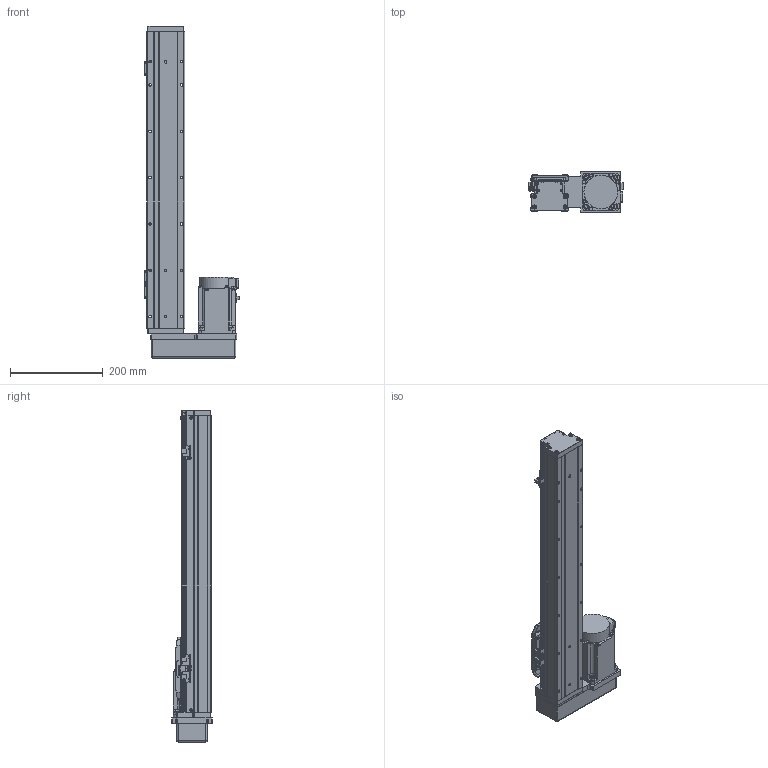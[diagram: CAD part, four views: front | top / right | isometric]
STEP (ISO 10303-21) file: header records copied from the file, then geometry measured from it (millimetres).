
FILE_DESCRIPTION (( 'STEP AP203' ), '1' );
FILE_NAME ('GTH8-450-BR-M75-C4.step', '2023-02-14T02:33:34', ( '微软用户' ), ( '微软中国' ), 'SwSTEP 2.0', 'SolidWorks 2020', '' );
FILE_SCHEMA (( 'CONFIG_CONTROL_DESIGN' ));
Length unit declared in the file: millimetre
Products named in the file (18): GTH80-022; BTH-M3X5X6; GTH80-001_450; GBT 70.1-M3℅6; CTHA86-015-3_CTHA86-015-4; GTH80-003; GBT 70.1-M4×16; CTHA86-035; GTH80-004; GTH80-028; hg-kn73j_-s100; GTH80-006; GTH50-024; GTH8-450-BR-M75-C4; GTH80-013; GTH50-023; GBT 70.3-M3℅6; GBT96.1-2002 3×0.8
Assembly tree (57 placements, depth 2):
  GTH8-450-BR-M75-C4
    GTH80-001_450
    GTH80-003
    GTH80-004
    GTH80-006
    GTH80-013
    GBT 70.3-M3℅6  x4
    GTH80-022
    GBT 70.1-M3℅6  x14
    GBT 70.1-M4×16  x8
    GTH80-028  x2
    GTH50-024  x3
    GTH50-023  x3
    GBT96.1-2002 3×0.8  x6
    BTH-M3X5X6  x8
    CTHA86-015-3_CTHA86-015-4
    CTHA86-035
    hg-kn73j_-s100
Bounding box: 204.7 x 87 x 716 mm (x, y, z)
Volume: 4317537.2 mm3; surface area: 455756.8 mm2
Topology: 59 solids, 59 shells, 2191 faces, 5082 edges, 3112 vertices
Faces by surface type: plane 1153, cylinder 623, cone 243, torus 158, sphere 12, bspline 2
Entity records: 39440 total; most frequent: CARTESIAN_POINT 6623, DIRECTION 6501, ORIENTED_EDGE 5974, EDGE_CURVE 2987, AXIS2_PLACEMENT_3D 2290, LINE 1921, VECTOR 1921, VERTEX_POINT 1887
